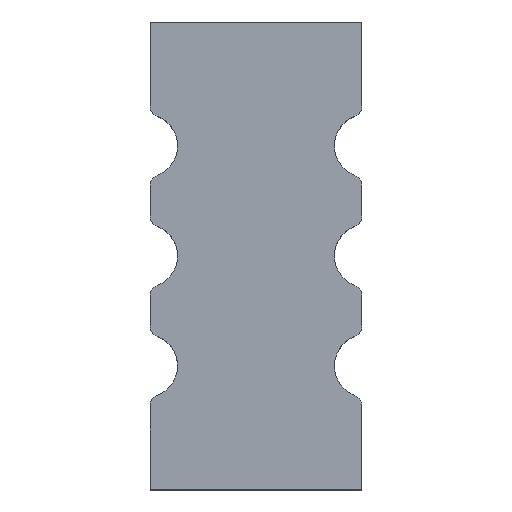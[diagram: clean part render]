
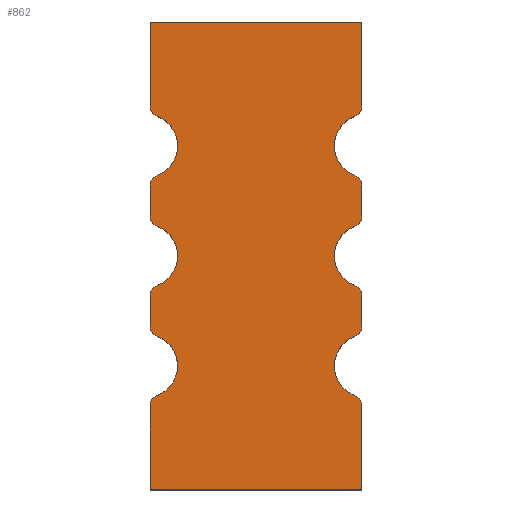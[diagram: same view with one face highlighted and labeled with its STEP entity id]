
A CAD part, top view. The second image highlights one B-rep face of the part: STEP entity #862.
In plain terms, the highlighted planar face has unit normal (0, 0, -1).
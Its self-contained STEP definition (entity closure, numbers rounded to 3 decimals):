
#60=CARTESIAN_POINT('',(4.991,-12.444,78.5));
#61=VERTEX_POINT('158',#60);
#62=CARTESIAN_POINT('',(4.991,17.873,78.5));
#63=VERTEX_POINT('148',#62);
#64=CARTESIAN_POINT('',(4.991,-12.444,78.5));
#65=DIRECTION('',(0.,1.,0.));
#66=VECTOR('',#65,30.317);
#67=LINE('',#64,#66);
#68=EDGE_CURVE('245',#61,#63,#67,.T.);
#100=CARTESIAN_POINT('',(2.278,21.855,78.5));
#101=VERTEX_POINT('150',#100);
#102=CARTESIAN_POINT('',(2.41,43.308,78.5));
#103=VERTEX_POINT('84',#102);
#104=CARTESIAN_POINT('',(6.491,32.556,78.5));
#105=DIRECTION('',(0.,0.,-1.));
#106=DIRECTION('',(-1.,0.,0.));
#107=AXIS2_PLACEMENT_3D('',#104,#105,#106);
#108=CIRCLE('',#107,11.5);
#109=EDGE_CURVE('243',#101,#103,#108,.T.);
#142=CARTESIAN_POINT('',(4.991,47.047,78.5));
#143=VERTEX_POINT('88',#142);
#144=CARTESIAN_POINT('',(4.991,58.065,78.5));
#145=VERTEX_POINT('86',#144);
#146=CARTESIAN_POINT('',(4.991,47.047,78.5));
#147=DIRECTION('',(0.,1.,0.));
#148=VECTOR('',#147,11.017);
#149=LINE('',#146,#148);
#150=EDGE_CURVE('241',#143,#145,#149,.T.);
#182=CARTESIAN_POINT('',(2.41,61.804,78.5));
#183=VERTEX_POINT('92',#182);
#184=CARTESIAN_POINT('',(2.41,83.308,78.5));
#185=VERTEX_POINT('90',#184);
#186=CARTESIAN_POINT('',(6.491,72.556,78.5));
#187=DIRECTION('',(0.,0.,-1.));
#188=DIRECTION('',(-1.,0.,0.));
#189=AXIS2_PLACEMENT_3D('',#186,#187,#188);
#190=CIRCLE('',#189,11.5);
#191=EDGE_CURVE('239',#183,#185,#190,.T.);
#224=CARTESIAN_POINT('',(4.991,87.047,78.5));
#225=VERTEX_POINT('96',#224);
#226=CARTESIAN_POINT('',(4.991,98.065,78.5));
#227=VERTEX_POINT('94',#226);
#228=CARTESIAN_POINT('',(4.991,87.047,78.5));
#229=DIRECTION('',(0.,1.,0.));
#230=VECTOR('',#229,11.017);
#231=LINE('',#228,#230);
#232=EDGE_CURVE('237',#225,#227,#231,.T.);
#264=CARTESIAN_POINT('',(2.41,101.804,78.5));
#265=VERTEX_POINT('100',#264);
#266=CARTESIAN_POINT('',(2.41,123.308,78.5));
#267=VERTEX_POINT('98',#266);
#268=CARTESIAN_POINT('',(6.491,112.556,78.5));
#269=DIRECTION('',(0.,0.,-1.));
#270=DIRECTION('',(-1.,0.,0.));
#271=AXIS2_PLACEMENT_3D('',#268,#269,#270);
#272=CIRCLE('',#271,11.5);
#273=EDGE_CURVE('235',#265,#267,#272,.T.);
#316=CARTESIAN_POINT('',(4.991,127.047,78.5));
#317=VERTEX_POINT('104',#316);
#324=CARTESIAN_POINT('',(4.991,157.556,78.5));
#325=VERTEX_POINT('160',#324);
#326=CARTESIAN_POINT('',(4.991,127.047,78.5));
#327=DIRECTION('',(0.,1.,0.));
#328=VECTOR('',#327,30.509);
#329=LINE('',#326,#328);
#330=EDGE_CURVE('233',#317,#325,#329,.T.);
#356=CARTESIAN_POINT('',(-72.009,58.065,78.5));
#357=VERTEX_POINT('134',#356);
#364=CARTESIAN_POINT('',(-72.009,47.047,78.5));
#365=VERTEX_POINT('132',#364);
#366=CARTESIAN_POINT('',(-72.009,58.065,78.5));
#367=DIRECTION('',(0.,-1.,0.));
#368=VECTOR('',#367,11.017);
#369=LINE('',#366,#368);
#370=EDGE_CURVE('219',#357,#365,#369,.T.);
#397=CARTESIAN_POINT('',(-69.429,83.308,78.5));
#398=VERTEX_POINT('130',#397);
#405=CARTESIAN_POINT('',(-69.429,61.804,78.5));
#406=VERTEX_POINT('128',#405);
#407=CARTESIAN_POINT('',(-73.509,72.556,78.5));
#408=DIRECTION('',(0.,0.,-1.));
#409=DIRECTION('',(-1.,0.,0.));
#410=AXIS2_PLACEMENT_3D('',#407,#408,#409);
#411=CIRCLE('',#410,11.5);
#412=EDGE_CURVE('221',#398,#406,#411,.T.);
#438=CARTESIAN_POINT('',(-72.009,98.065,78.5));
#439=VERTEX_POINT('126',#438);
#446=CARTESIAN_POINT('',(-72.009,87.047,78.5));
#447=VERTEX_POINT('124',#446);
#448=CARTESIAN_POINT('',(-72.009,98.065,78.5));
#449=DIRECTION('',(0.,-1.,0.));
#450=VECTOR('',#449,11.017);
#451=LINE('',#448,#450);
#452=EDGE_CURVE('223',#439,#447,#451,.T.);
#479=CARTESIAN_POINT('',(-69.429,123.308,78.5));
#480=VERTEX_POINT('140',#479);
#487=CARTESIAN_POINT('',(-69.429,101.804,78.5));
#488=VERTEX_POINT('138',#487);
#489=CARTESIAN_POINT('',(-73.509,112.556,78.5));
#490=DIRECTION('',(0.,0.,-1.));
#491=DIRECTION('',(-1.,0.,0.));
#492=AXIS2_PLACEMENT_3D('',#489,#490,#491);
#493=CIRCLE('',#492,11.5);
#494=EDGE_CURVE('225',#480,#488,#493,.T.);
#510=CARTESIAN_POINT('',(-72.009,157.556,78.5));
#511=VERTEX_POINT('162',#510);
#512=CARTESIAN_POINT('',(-72.009,127.047,78.5));
#513=VERTEX_POINT('122',#512);
#514=CARTESIAN_POINT('',(-72.009,157.556,78.5));
#515=DIRECTION('',(0.,-1.,0.));
#516=VECTOR('',#515,30.509);
#517=LINE('',#514,#516);
#518=EDGE_CURVE('227',#511,#513,#517,.T.);
#561=CARTESIAN_POINT('',(-69.429,43.308,78.5));
#562=VERTEX_POINT('136',#561);
#569=CARTESIAN_POINT('',(-69.676,21.714,78.5));
#570=VERTEX_POINT('170',#569);
#571=CARTESIAN_POINT('',(-73.509,32.556,78.5));
#572=DIRECTION('',(0.,0.,-1.));
#573=DIRECTION('',(-1.,0.,0.));
#574=AXIS2_PLACEMENT_3D('',#571,#572,#573);
#575=CIRCLE('',#574,11.5);
#576=EDGE_CURVE('217',#562,#570,#575,.T.);
#719=CARTESIAN_POINT('',(-72.009,-12.444,78.5));
#720=VERTEX_POINT('168',#719);
#728=CARTESIAN_POINT('',(-72.009,18.414,78.5));
#729=VERTEX_POINT('176',#728);
#736=CARTESIAN_POINT('',(-72.009,18.414,78.5));
#737=DIRECTION('',(0.,-1.,0.));
#738=VECTOR('',#737,30.858);
#739=LINE('',#736,#738);
#740=EDGE_CURVE('191',#729,#720,#739,.T.);
#745=CARTESIAN_POINT('',(-33.509,72.556,78.5));
#746=DIRECTION('',(0.,0.,-1.));
#747=DIRECTION('',(-1.,-0.,0.));
#748=AXIS2_PLACEMENT_3D('',#745,#746,#747);
#749=PLANE('',#748);
#750=ORIENTED_EDGE('',*,*,#330,.F.);
#751=CARTESIAN_POINT('',(0.991,127.047,78.5));
#752=DIRECTION('',(0.,0.,-1.));
#753=DIRECTION('',(-1.,0.,0.));
#754=AXIS2_PLACEMENT_3D('',#751,#752,#753);
#755=CIRCLE('',#754,4.);
#756=EDGE_CURVE('323',#317,#267,#755,.T.);
#757=ORIENTED_EDGE('',*,*,#756,.T.);
#758=ORIENTED_EDGE('',*,*,#273,.F.);
#759=CARTESIAN_POINT('',(0.991,98.065,78.5));
#760=DIRECTION('',(0.,0.,-1.));
#761=DIRECTION('',(-1.,0.,0.));
#762=AXIS2_PLACEMENT_3D('',#759,#760,#761);
#763=CIRCLE('',#762,4.);
#764=EDGE_CURVE('321',#265,#227,#763,.T.);
#765=ORIENTED_EDGE('',*,*,#764,.T.);
#766=ORIENTED_EDGE('',*,*,#232,.F.);
#767=CARTESIAN_POINT('',(0.991,87.047,78.5));
#768=DIRECTION('',(0.,0.,-1.));
#769=DIRECTION('',(-1.,0.,0.));
#770=AXIS2_PLACEMENT_3D('',#767,#768,#769);
#771=CIRCLE('',#770,4.);
#772=EDGE_CURVE('319',#225,#185,#771,.T.);
#773=ORIENTED_EDGE('',*,*,#772,.T.);
#774=ORIENTED_EDGE('',*,*,#191,.F.);
#775=CARTESIAN_POINT('',(0.991,58.065,78.5));
#776=DIRECTION('',(0.,0.,-1.));
#777=DIRECTION('',(-1.,0.,0.));
#778=AXIS2_PLACEMENT_3D('',#775,#776,#777);
#779=CIRCLE('',#778,4.);
#780=EDGE_CURVE('317',#183,#145,#779,.T.);
#781=ORIENTED_EDGE('',*,*,#780,.T.);
#782=ORIENTED_EDGE('',*,*,#150,.F.);
#783=CARTESIAN_POINT('',(0.991,47.047,78.5));
#784=DIRECTION('',(0.,0.,-1.));
#785=DIRECTION('',(-1.,0.,0.));
#786=AXIS2_PLACEMENT_3D('',#783,#784,#785);
#787=CIRCLE('',#786,4.);
#788=EDGE_CURVE('315',#143,#103,#787,.T.);
#789=ORIENTED_EDGE('',*,*,#788,.T.);
#790=ORIENTED_EDGE('',*,*,#109,.F.);
#791=CARTESIAN_POINT('',(0.711,17.873,78.5));
#792=DIRECTION('',(0.,0.,-1.));
#793=DIRECTION('',(-1.,0.,0.));
#794=AXIS2_PLACEMENT_3D('',#791,#792,#793);
#795=CIRCLE('',#794,4.28);
#796=EDGE_CURVE('267',#101,#63,#795,.T.);
#797=ORIENTED_EDGE('',*,*,#796,.T.);
#798=ORIENTED_EDGE('',*,*,#68,.F.);
#799=CARTESIAN_POINT('',(-72.009,-12.444,78.5));
#800=DIRECTION('',(1.,0.,-0.));
#801=VECTOR('',#800,77.);
#802=LINE('',#799,#801);
#803=EDGE_CURVE('194',#720,#61,#802,.T.);
#804=ORIENTED_EDGE('',*,*,#803,.F.);
#805=ORIENTED_EDGE('',*,*,#740,.F.);
#806=CARTESIAN_POINT('',(-68.509,18.414,78.5));
#807=DIRECTION('',(0.,0.,-1.));
#808=DIRECTION('',(-1.,0.,0.));
#809=AXIS2_PLACEMENT_3D('',#806,#807,#808);
#810=CIRCLE('',#809,3.5);
#811=EDGE_CURVE('182',#729,#570,#810,.T.);
#812=ORIENTED_EDGE('',*,*,#811,.T.);
#813=ORIENTED_EDGE('',*,*,#576,.F.);
#814=CARTESIAN_POINT('',(-68.009,47.047,78.5));
#815=DIRECTION('',(0.,0.,-1.));
#816=DIRECTION('',(-1.,0.,0.));
#817=AXIS2_PLACEMENT_3D('',#814,#815,#816);
#818=CIRCLE('',#817,4.);
#819=EDGE_CURVE('277',#562,#365,#818,.T.);
#820=ORIENTED_EDGE('',*,*,#819,.T.);
#821=ORIENTED_EDGE('',*,*,#370,.F.);
#822=CARTESIAN_POINT('',(-68.009,58.065,78.5));
#823=DIRECTION('',(0.,0.,-1.));
#824=DIRECTION('',(-1.,0.,0.));
#825=AXIS2_PLACEMENT_3D('',#822,#823,#824);
#826=CIRCLE('',#825,4.);
#827=EDGE_CURVE('279',#357,#406,#826,.T.);
#828=ORIENTED_EDGE('',*,*,#827,.T.);
#829=ORIENTED_EDGE('',*,*,#412,.F.);
#830=CARTESIAN_POINT('',(-68.009,87.047,78.5));
#831=DIRECTION('',(0.,0.,-1.));
#832=DIRECTION('',(-1.,0.,0.));
#833=AXIS2_PLACEMENT_3D('',#830,#831,#832);
#834=CIRCLE('',#833,4.);
#835=EDGE_CURVE('281',#398,#447,#834,.T.);
#836=ORIENTED_EDGE('',*,*,#835,.T.);
#837=ORIENTED_EDGE('',*,*,#452,.F.);
#838=CARTESIAN_POINT('',(-68.009,98.065,78.5));
#839=DIRECTION('',(0.,0.,-1.));
#840=DIRECTION('',(-1.,0.,0.));
#841=AXIS2_PLACEMENT_3D('',#838,#839,#840);
#842=CIRCLE('',#841,4.);
#843=EDGE_CURVE('283',#439,#488,#842,.T.);
#844=ORIENTED_EDGE('',*,*,#843,.T.);
#845=ORIENTED_EDGE('',*,*,#494,.F.);
#846=CARTESIAN_POINT('',(-68.009,127.047,78.5));
#847=DIRECTION('',(0.,0.,-1.));
#848=DIRECTION('',(-1.,0.,0.));
#849=AXIS2_PLACEMENT_3D('',#846,#847,#848);
#850=CIRCLE('',#849,4.);
#851=EDGE_CURVE('285',#480,#513,#850,.T.);
#852=ORIENTED_EDGE('',*,*,#851,.T.);
#853=ORIENTED_EDGE('',*,*,#518,.F.);
#854=CARTESIAN_POINT('',(4.991,157.556,78.5));
#855=DIRECTION('',(-1.,0.,0.));
#856=VECTOR('',#855,77.);
#857=LINE('',#854,#856);
#858=EDGE_CURVE('229',#325,#511,#857,.T.);
#859=ORIENTED_EDGE('',*,*,#858,.F.);
#860=EDGE_LOOP('',(#750,#757,#758,#765,#766,#773,#774,#781,#782,#789,#790,#797,#798,#804,#805,#812,#813,#820,#821,#828,#829,#836,#837,#844,#845,#852,
#853,#859));
#861=FACE_BOUND('',#860,.T.);
#862=ADVANCED_FACE('561',(#861),#749,.T.);
